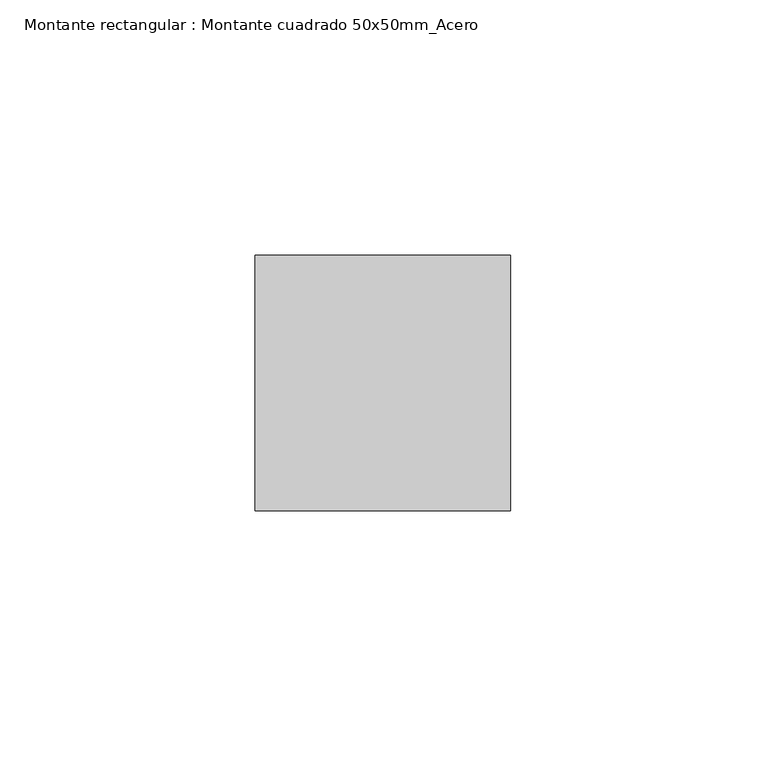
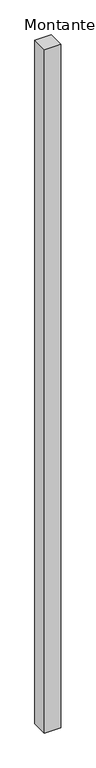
"""IFC4 building model written with IfcOpenShell, lengths in millimetres: member geometry, Montante rectangular : Montante cuadrado 50x50mm_Acero."""

from ifc_helpers import new_model, si_unit, frame, origin, place, context, project, spatial, polyline, outline, extrude, source, transform, mapped, element, save


def montante_rectangular_montante_cuadrado_50x50mm_acero_3253d648(model_context):
    return source(origin(), model_context, "Body", "SweptSolid", [
        extrude(outline(polyline([(0.0, 0.0), (0.0, 50.0), (50.0, 50.0), (50.0, 0.0), (0.0, 0.0)])), frame((0.0, 0.0, -2200.0), z_axis=(0.0, 0.0, 1.0), x_axis=(1.0, 0.0, 0.0)), (0.0, 0.0, 1.0), 2200.0),
    ])


if __name__ == "__main__":
    model = new_model("IFC4")
    model_context = context("Model", 3, world=origin())
    ifc_project = project(units=[si_unit("LENGTHUNIT", "METRE", prefix="MILLI")], contexts=[model_context])
    site = spatial("IfcSite", under=ifc_project)
    building = spatial("IfcBuilding", under=site)
    placement = place(None, origin())
    montante_rectangular_montante_cuadrado_50x50mm_acero_shape = montante_rectangular_montante_cuadrado_50x50mm_acero_3253d648(model_context)
    element("IfcMember", 1, ObjectType="Montante rectangular : Montante cuadrado 50x50mm_Acero", at=placement, inside=building, context=model_context, shape_type="MappedRepresentation", body=[
        mapped(montante_rectangular_montante_cuadrado_50x50mm_acero_shape, transform((0.0, 0.0, 0.0), x_axis=(1.0, 0.0, 0.0), y_axis=(0.0, 1.0, 0.0), z_axis=(0.0, 0.0, 1.0))),
    ])
    save(model, "model.ifc")
